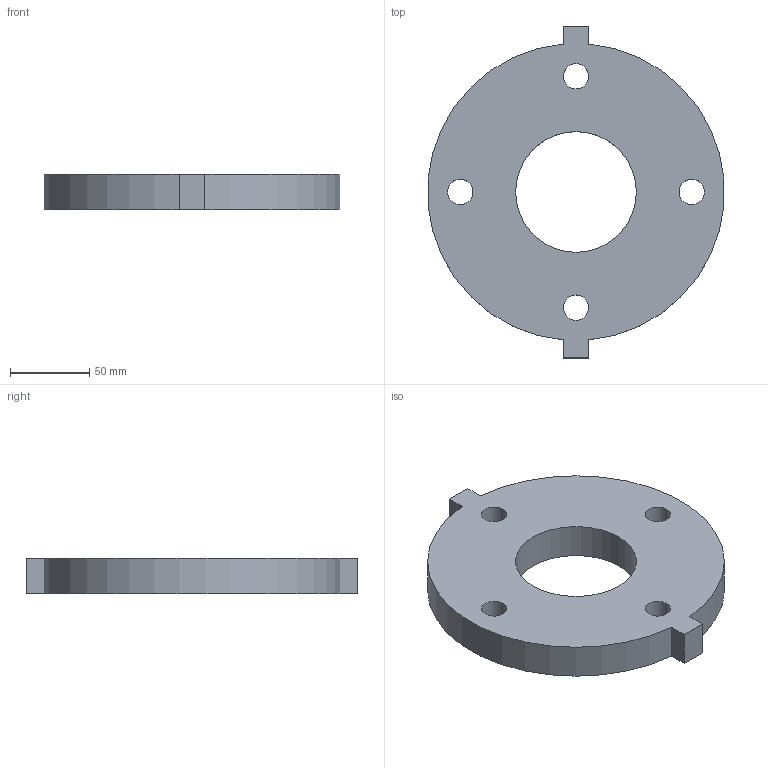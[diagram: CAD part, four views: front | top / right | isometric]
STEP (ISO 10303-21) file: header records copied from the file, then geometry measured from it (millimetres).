
FILE_DESCRIPTION(/* description */ ('VIC FLANGE ADAPTER STYLE 741 PN10 Flanges','CAx-IF Rec.Pracs.---Representation and Presentation of Product Manufacturing Information (PMI)---4.0---2014-10-13'),/* implementation_level */ '2;1');
FILE_NAME(/* name */ 'C:\Users\kkamble\AppData\Roaming\Autodesk\ApplicationPlugins\Back Up\Victaulic_IPS_Flange Adapter_PN10_Style 741 (OGSxFLG)\Victaulic_IPS_Flange Adapter_PN10_Style 741 (OGSxFLG)_02.5 (76.1) (65).stp',/* time_stamp */ '2020-07-24T08:15:58+06:00',/* author */ ('jheald'),/* organization */ ('Victaulic'),/* preprocessor_version */ 'ST-DEVELOPER v17.2',/* originating_system */ 'Autodesk Inventor 2019',/* authorisation */ '');
FILE_SCHEMA (('AP242_MANAGED_MODEL_BASED_3D_ENGINEERING_MIM_LF { 1 0 10303 442 1 1 4 }'));
Length unit declared in the file: inch
Products named in the file (1): 741-02.5 (76.1)
Bounding box: 186.74 x 209.55 x 22.35 mm (x, y, z)
Volume: 505060.2 mm3; surface area: 69218.6 mm2
Topology: 1 solids, 1 shells, 15 faces, 39 edges, 26 vertices
Faces by surface type: plane 8, cylinder 7
Full cylindrical faces by diameter (mm): 16.002 x4, 76.2 x1
Entity records: 543 total; most frequent: DIRECTION 85, CARTESIAN_POINT 81, ORIENTED_EDGE 78, EDGE_CURVE 39, AXIS2_PLACEMENT_3D 30, VERTEX_POINT 26, EDGE_LOOP 25, LINE 25
